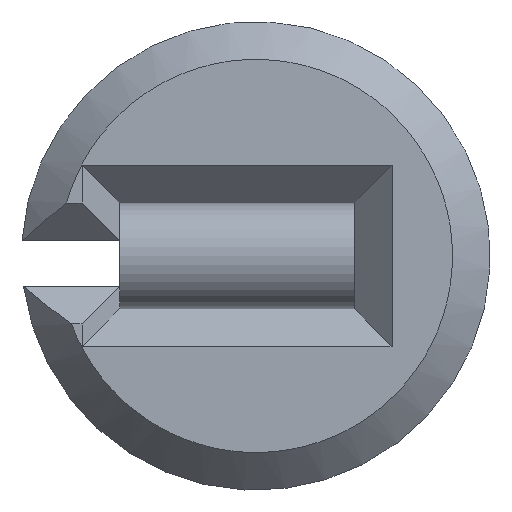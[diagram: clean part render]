
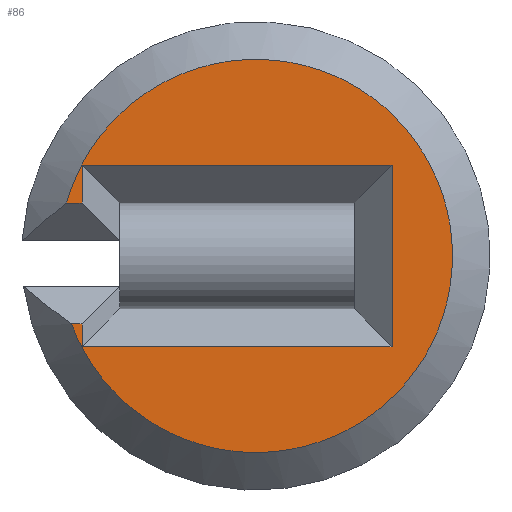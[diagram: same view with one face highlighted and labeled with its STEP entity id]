
A CAD part, left-side view. The second image highlights one B-rep face of the part: STEP entity #86.
In plain terms, the highlighted planar face has unit normal (-1, 0, 0).
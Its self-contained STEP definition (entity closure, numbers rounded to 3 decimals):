
#86=ADVANCED_FACE('',(#252),#254,.F.);
#252=FACE_BOUND('',#253,.T.);
#253=EDGE_LOOP('',(#347,#348,#349,#350,#351,#352,#353,#354));
#254=PLANE('',#255);
#255=AXIS2_PLACEMENT_3D('',#256,#257,#258);
#256=CARTESIAN_POINT('',(30.,0.,0.));
#257=DIRECTION('',(1.,0.,0.));
#258=DIRECTION('',(0.,1.,0.));
#347=ORIENTED_EDGE('',*,*,#400,.F.);
#348=ORIENTED_EDGE('',*,*,#395,.F.);
#349=ORIENTED_EDGE('',*,*,#390,.F.);
#350=ORIENTED_EDGE('',*,*,#385,.F.);
#351=ORIENTED_EDGE('',*,*,#380,.F.);
#352=ORIENTED_EDGE('',*,*,#375,.F.);
#353=ORIENTED_EDGE('',*,*,#370,.F.);
#354=ORIENTED_EDGE('',*,*,#363,.F.);
#363=EDGE_CURVE('',#417,#418,#419,.T.);
#370=EDGE_CURVE('',#418,#430,#431,.T.);
#375=EDGE_CURVE('',#430,#438,#439,.T.);
#380=EDGE_CURVE('',#438,#446,#447,.T.);
#385=EDGE_CURVE('',#446,#454,#455,.T.);
#390=EDGE_CURVE('',#454,#462,#463,.T.);
#395=EDGE_CURVE('',#462,#470,#471,.T.);
#400=EDGE_CURVE('',#470,#417,#478,.T.);
#417=VERTEX_POINT('',#515);
#418=VERTEX_POINT('',#516);
#419=LINE('',#517,#518);
#430=VERTEX_POINT('',#566);
#431=LINE('',#567,#568);
#438=VERTEX_POINT('',#584);
#439=LINE('',#585,#586);
#446=VERTEX_POINT('',#602);
#447=LINE('',#603,#604);
#454=VERTEX_POINT('',#620);
#455=LINE('',#621,#622);
#462=VERTEX_POINT('',#638);
#463=LINE('',#639,#640);
#470=VERTEX_POINT('',#656);
#471=LINE('',#657,#658);
#478=CIRCLE('',#706,26.);
#515=CARTESIAN_POINT('',(30.,24.393,-9.));
#516=CARTESIAN_POINT('',(30.,23.,-9.));
#517=CARTESIAN_POINT('',(30.,24.393,-9.));
#518=VECTOR('',#519,1.);
#519=DIRECTION('',(0.,-1.,0.));
#566=CARTESIAN_POINT('',(30.,23.,-12.));
#567=CARTESIAN_POINT('',(30.,23.,-9.));
#568=VECTOR('',#569,1.);
#569=DIRECTION('',(0.,0.,-1.));
#584=CARTESIAN_POINT('',(30.,-18.,-12.));
#585=CARTESIAN_POINT('',(30.,23.,-12.));
#586=VECTOR('',#587,1.);
#587=DIRECTION('',(0.,-1.,0.));
#602=CARTESIAN_POINT('',(30.,-18.,12.));
#603=CARTESIAN_POINT('',(30.,-18.,-12.));
#604=VECTOR('',#605,1.);
#605=DIRECTION('',(0.,0.,1.));
#620=CARTESIAN_POINT('',(30.,23.,12.));
#621=CARTESIAN_POINT('',(30.,-18.,12.));
#622=VECTOR('',#623,1.);
#623=DIRECTION('',(0.,1.,0.));
#638=CARTESIAN_POINT('',(30.,23.,7.));
#639=CARTESIAN_POINT('',(30.,23.,12.));
#640=VECTOR('',#641,1.);
#641=DIRECTION('',(0.,0.,-1.));
#656=CARTESIAN_POINT('',(30.,25.04,7.));
#657=CARTESIAN_POINT('',(30.,23.,7.));
#658=VECTOR('',#659,1.);
#659=DIRECTION('',(0.,1.,0.));
#706=AXIS2_PLACEMENT_3D('',#707,#708,#709);
#707=CARTESIAN_POINT('',(30.,0.,0.));
#708=DIRECTION('',(1.,0.,0.));
#709=DIRECTION('',(0.,0.963,0.269));
